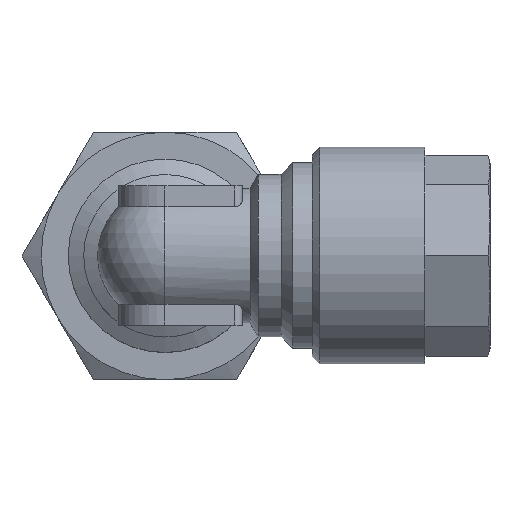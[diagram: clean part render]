
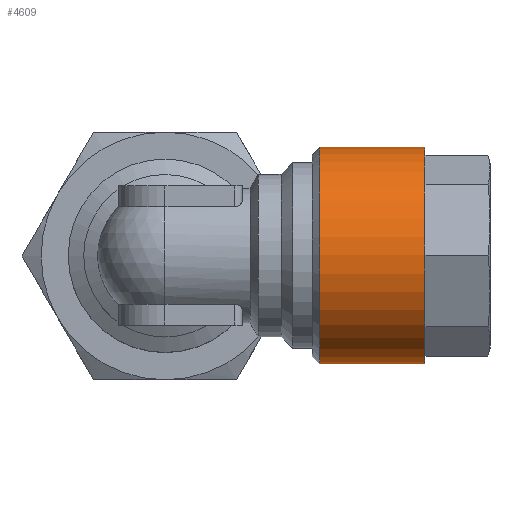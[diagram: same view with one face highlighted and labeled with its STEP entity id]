
A CAD part, top view. The second image highlights one B-rep face of the part: STEP entity #4609.
In plain terms, the highlighted cylindrical face has radius 7 mm (diameter 14 mm), a full revolution.
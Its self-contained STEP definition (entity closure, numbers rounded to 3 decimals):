
#2438=CYLINDRICAL_SURFACE('',#4341,7.);
#2563=ORIENTED_EDGE('',*,*,#3191,.F.);
#2564=ORIENTED_EDGE('',*,*,#3192,.T.);
#2914=CIRCLE('',#4340,7.);
#2915=CIRCLE('',#4342,7.);
#3022=VERTEX_POINT('',#4807);
#3023=VERTEX_POINT('',#4810);
#3191=EDGE_CURVE('',#3022,#3022,#2914,.T.);
#3192=EDGE_CURVE('',#3023,#3023,#2915,.T.);
#3388=EDGE_LOOP('',(#2563));
#3389=EDGE_LOOP('',(#2564));
#3560=FACE_BOUND('',#3388,.T.);
#3561=FACE_BOUND('',#3389,.T.);
#3823=DIRECTION('',(0.,1.,0.));
#3824=DIRECTION('',(0.,0.,-7.));
#3825=DIRECTION('',(0.,1.,0.));
#3826=DIRECTION('',(1.,0.,0.));
#3827=DIRECTION('',(0.,1.,0.));
#3828=DIRECTION('',(0.,0.,7.));
#4340=AXIS2_PLACEMENT_3D('',#4808,#3823,#3824);
#4341=AXIS2_PLACEMENT_3D('',#4809,#3825,#3826);
#4342=AXIS2_PLACEMENT_3D('',#4811,#3827,#3828);
#4609=ADVANCED_FACE('',(#3560,#3561),#2438,.T.);
#4807=CARTESIAN_POINT('',(26.989,21.895,-7.));
#4808=CARTESIAN_POINT('',(26.989,21.895,0.));
#4809=CARTESIAN_POINT('',(26.989,15.095,0.));
#4810=CARTESIAN_POINT('',(26.989,15.095,7.));
#4811=CARTESIAN_POINT('',(26.989,15.095,0.));
